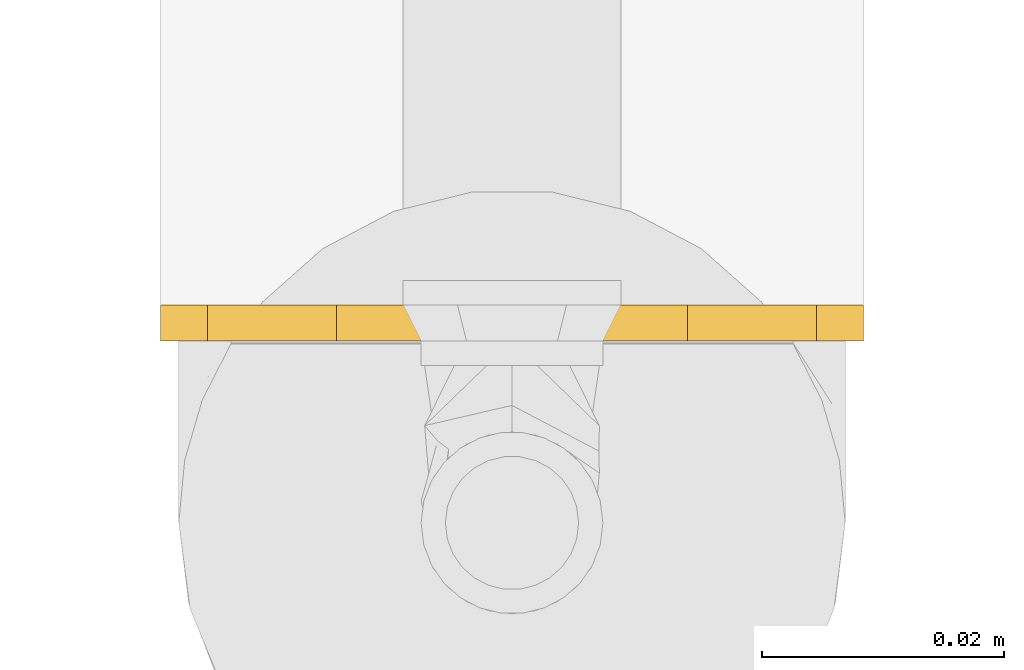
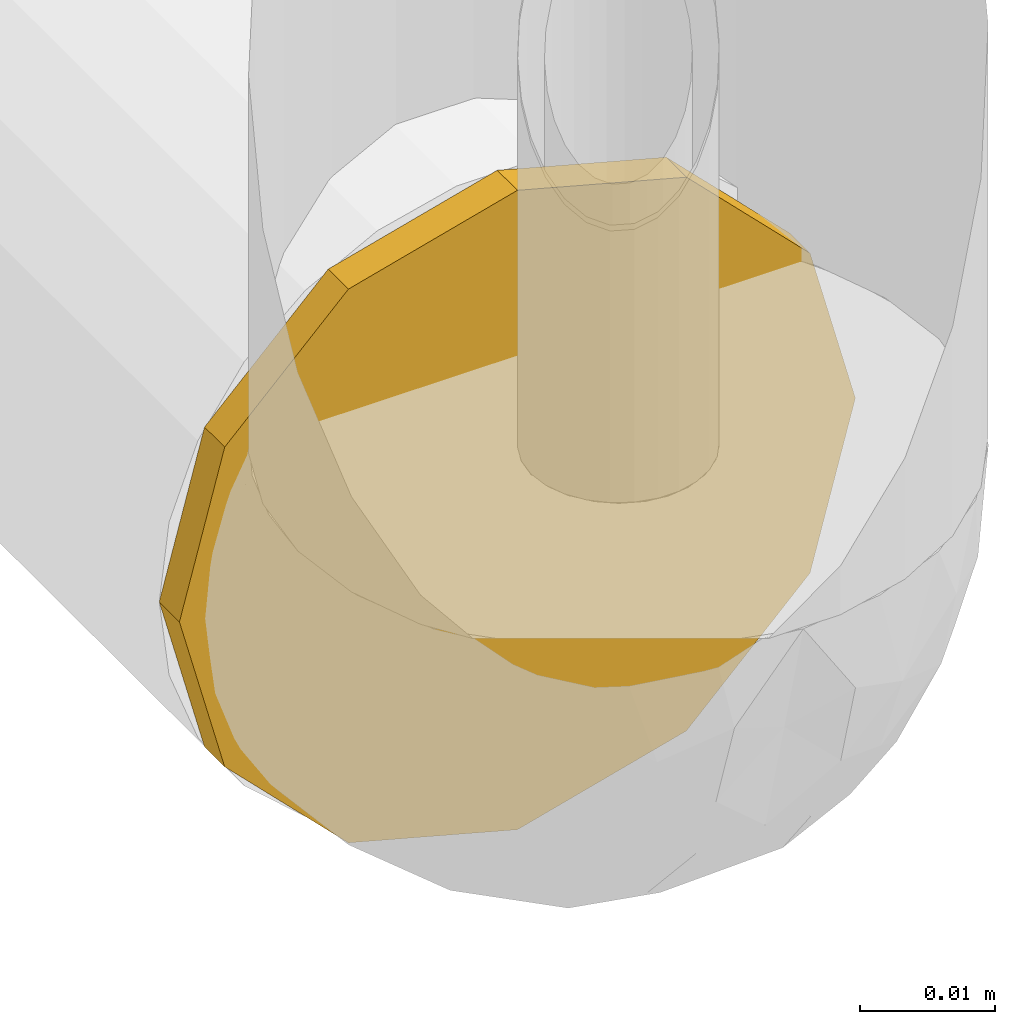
# One storey, part 16 of 78: 1 covering.
"""IFC2X3 building model written with IfcOpenShell, lengths in millimetres."""

from ifc_helpers import new_model, entity, si_unit, converted_unit, derived_unit, direction, frame, origin_with_axes, place, context, subcontext, project, spatial, open_shell, surface_model, source, transform, mapped, element, save


model = new_model("IFC2X3")

# Units and contexts
model_context = context("Model", 3, precision=0.01, world=frame((0.0, 4.29681676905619e-09, 0.0)), true_north=direction((4.01073788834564e-13, 1.0)))
plan_context = context("Plan", 3, precision=0.01, world=frame((0.0, 4.29681676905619e-09, 0.0)), true_north=direction((4.01073788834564e-13, 1.0)))
body_context = subcontext(model_context, "Body", "Model", "MODEL_VIEW")
ifc_project = project(units=[converted_unit("PLANEANGLEUNIT", "DEGREE", entity("IfcPositiveLengthMeasure", 0.0174532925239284), si_unit("PLANEANGLEUNIT", "RADIAN"), dimensions=[0, 0, 0, 0, 0, 0, 0]), si_unit("AREAUNIT", "SQUARE_METRE"), si_unit("LENGTHUNIT", "METRE", prefix="MILLI"), si_unit("MASSUNIT", "GRAM", prefix="KILO"), si_unit("POWERUNIT", "WATT"), si_unit("PRESSUREUNIT", "PASCAL"), si_unit("FORCEUNIT", "NEWTON", prefix="KILO"), si_unit("ELECTRICVOLTAGEUNIT", "VOLT"), si_unit("ELECTRICCURRENTUNIT", "AMPERE"), si_unit("THERMODYNAMICTEMPERATUREUNIT", "DEGREE_CELSIUS"), si_unit("TIMEUNIT", "SECOND"), si_unit("VOLUMEUNIT", "CUBIC_METRE"), derived_unit("LINEARVELOCITYUNIT", [(si_unit("LENGTHUNIT", "METRE"), 1), (si_unit("TIMEUNIT", "SECOND"), -1)]), derived_unit("VOLUMETRICFLOWRATEUNIT", [(si_unit("VOLUMEUNIT", "CUBIC_METRE"), 1), (si_unit("TIMEUNIT", "SECOND"), -1)]), derived_unit("THERMALTRANSMITTANCEUNIT", [(si_unit("POWERUNIT", "WATT"), 1), (si_unit("THERMODYNAMICTEMPERATUREUNIT", "KELVIN"), -1), (si_unit("AREAUNIT", "SQUARE_METRE"), -1)]), derived_unit("SOUNDPRESSUREUNIT", [(si_unit("PRESSUREUNIT", "PASCAL"), 1)])], contexts=[model_context, plan_context])

# Site, building, storey
site_placement = place(None, frame((0.0, -4.29681676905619e-09, 0.0), z_axis=(0.0, 0.0, 1.0), x_axis=(1.0, 0.0, 0.0)))
site = spatial("IfcSite", under=ifc_project, at=site_placement, Name="ENGM", CompositionType="ELEMENT")
building_placement = place(site_placement, frame((0.0, 4.29681676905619e-09, 0.0), z_axis=(0.0, 0.0, 1.0), x_axis=(1.0, 0.0, 0.0)))
building = spatial("IfcBuilding", under=site, at=building_placement, Name="TH", CompositionType="ELEMENT")
storey_placement = place(building_placement, frame((0.0, 0.0, 205200.0), z_axis=(0.0, 0.0, 1.0), x_axis=(1.0, 0.0, 0.0)))
storey = spatial("IfcBuildingStorey", under=building, at=storey_placement, Name="Nivå D + 1,2 m", CompositionType="ELEMENT", Elevation=205200.0)

# Covering
shared_shape = source(origin_with_axes(), body_context, "Body", "SurfaceModel", [
    surface_model("IfcShellBasedSurfaceModel", [(3.0, -14.5, 25.11474), (3.0, -25.11474, 14.5), (3.0, -29.0, 0.0), (3.0, 14.5, 25.11474), (3.0, 0.0, 29.0), (0.0, -14.5, 25.11474), (0.0, 0.0, 29.0), (0.0, 14.5, 25.11474), (0.0, 0.0, -29.0), (0.0, 25.11474, -14.5), (0.0, 14.5, -25.11474), (0.0, -14.5, -25.11474), (3.0, -25.11474, -14.5), (0.0, -27.05737, -7.25), (0.0, -25.11474, -14.5), (0.0, -29.0, 0.0), (3.0, -27.49648, -5.61123), (3.0, -14.5, -25.11474), (0.0, -19.80737, -19.80737), (3.0, -7.25, -27.05737), (0.0, -5.61123, -27.49648), (3.0, -19.80737, -19.80737), (3.0, 0.0, -29.0), (3.0, 14.5, -25.11474), (0.0, 7.25, -27.05737), (3.0, 5.61123, -27.49648), (3.0, 25.11474, -14.5), (0.0, 19.80737, -19.80737), (3.0, 27.05737, -7.25), (0.0, 27.49648, -5.61123), (3.0, 19.80737, -19.80737), (3.0, 29.0, 0.0), (0.0, 29.0, 0.0), (3.0, 25.11474, 14.5), (0.0, 27.05737, 7.25), (0.0, 25.11474, 14.5), (3.0, 27.49648, 5.61123), (0.0, 19.80737, 19.80737), (3.0, 7.25, 27.05737), (0.0, 5.61123, 27.49648), (3.0, 19.80737, 19.80737), (0.0, -7.25, 27.05737), (3.0, -5.61123, 27.49648), (0.0, -19.80737, 19.80737), (0.0, -25.11474, 14.5), (3.0, -27.05737, 7.25), (0.0, -27.49648, 5.61123), (3.0, -19.80737, 19.80737)], [open_shell([[[0, 1, 2]], [[0, 3, 4]], [[5, 6, 7]], [[8, 9, 10]], [[11, 9, 8]], [[12, 13, 14]], [[15, 16, 2]], [[16, 15, 13]], [[17, 18, 11]], [[11, 19, 17]], [[19, 11, 20]], [[18, 17, 21]], [[20, 22, 19]], [[21, 12, 14]], [[21, 14, 18]], [[20, 8, 22]], [[12, 16, 13]], [[23, 24, 10]], [[8, 25, 22]], [[25, 8, 24]], [[26, 27, 9]], [[9, 28, 26]], [[28, 9, 29]], [[27, 26, 30]], [[29, 31, 28]], [[30, 23, 10]], [[30, 10, 27]], [[29, 32, 31]], [[23, 25, 24]], [[33, 34, 35]], [[32, 36, 31]], [[36, 32, 34]], [[3, 37, 7]], [[7, 38, 3]], [[38, 7, 39]], [[37, 3, 40]], [[39, 4, 38]], [[40, 33, 35]], [[40, 35, 37]], [[39, 6, 4]], [[33, 36, 34]], [[0, 41, 5]], [[6, 42, 4]], [[42, 6, 41]], [[1, 43, 44]], [[44, 45, 1]], [[45, 44, 46]], [[43, 1, 47]], [[46, 2, 45]], [[47, 0, 5]], [[47, 5, 43]], [[46, 15, 2]], [[0, 42, 41]], [[3, 0, 26]], [[33, 3, 31]], [[26, 0, 2]], [[22, 2, 17]], [[2, 22, 26]], [[26, 31, 3]], [[26, 22, 23]], [[17, 2, 12]], [[9, 15, 7]], [[7, 44, 5]], [[44, 7, 15]], [[7, 35, 32]], [[9, 11, 15]], [[11, 14, 15]], [[9, 7, 32]]])]),
])
covering_placement = place(storey_placement, frame((904834.075, 477894.03687, 4410.0), z_axis=(0.0, 0.0, 1.0), x_axis=(0.0, 1.0, 0.0)))
element("IfcCovering", 1, at=covering_placement, inside=storey, Name="BI20T - Cellegummi 13 mm kalde rør", PredefinedType="INSULATION", context=body_context, shape_type="MappedRepresentation", body=[
    mapped(shared_shape, transform((0.0, 0.0, 0.0), scale=1.0)),
])

save(model, "model.ifc")
